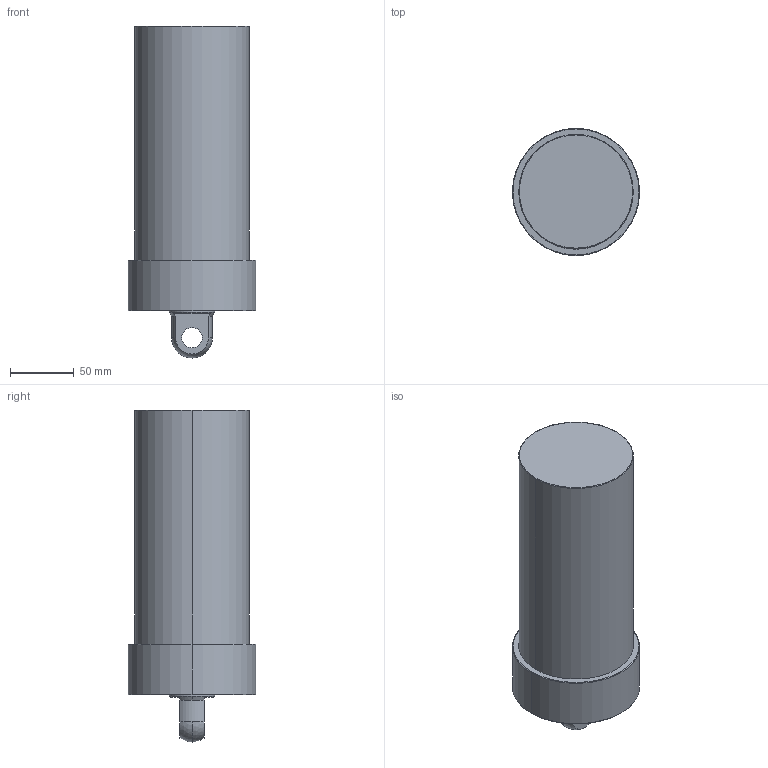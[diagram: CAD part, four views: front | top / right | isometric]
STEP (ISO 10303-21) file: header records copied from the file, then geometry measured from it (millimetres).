
FILE_DESCRIPTION (( 'STEP AP203' ), '1' );
FILE_NAME ('CLLU-090GP-140.STEP', '2020-01-15T01:50:22', ( '' ), ( '' ), 'SwSTEP 2.0', 'SolidWorks 2015', '' );
FILE_SCHEMA (( 'CONFIG_CONTROL_DESIGN' ));
Length unit declared in the file: millimetre
Products named in the file (1): CLLU-090GP-140
Bounding box: 100 x 100 x 261 mm (x, y, z)
Volume: 1493719.6 mm3; surface area: 86480.1 mm2
Topology: 1 solids, 1 shells, 58 faces, 131 edges, 75 vertices
Faces by surface type: cylinder 23, cone 18, plane 9, torus 6, sphere 2
Entity records: 1658 total; most frequent: DIRECTION 311, CARTESIAN_POINT 269, ORIENTED_EDGE 246, AXIS2_PLACEMENT_3D 133, EDGE_CURVE 123, VERTEX_POINT 75, CIRCLE 74, EDGE_LOOP 68
